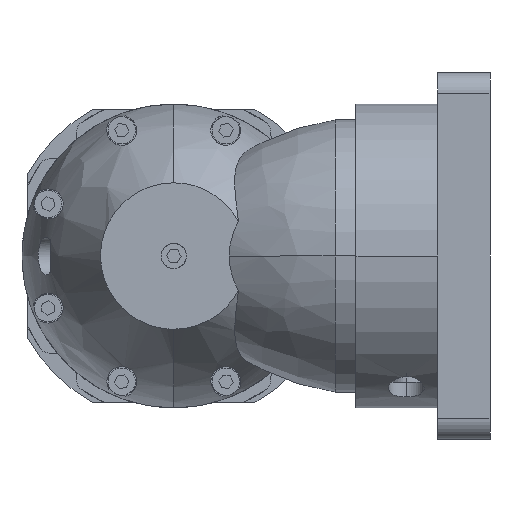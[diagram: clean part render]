
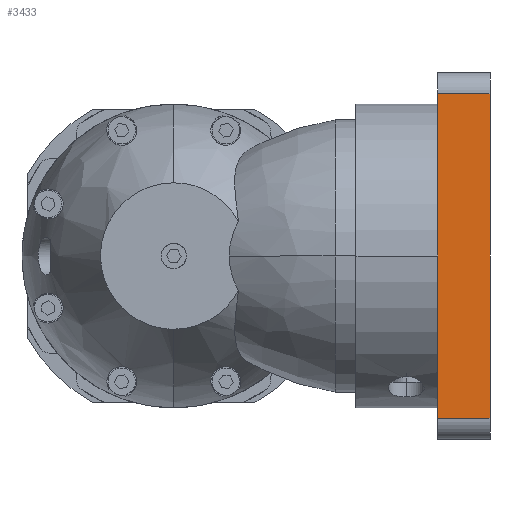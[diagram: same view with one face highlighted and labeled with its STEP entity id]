
A CAD part, left-side view. The second image highlights one B-rep face of the part: STEP entity #3433.
In plain terms, the highlighted planar face has unit normal (-1, 0, 0).
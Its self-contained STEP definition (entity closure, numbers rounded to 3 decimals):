
#80 = DIRECTION ( 'NONE',  ( 0., 0., 1. ) ) ;
#806 = CARTESIAN_POINT ( 'NONE',  ( -87.5, -126., -77.5 ) ) ;
#1289 = CARTESIAN_POINT ( 'NONE',  ( -87.5, -151., 77.5 ) ) ;
#1733 = VECTOR ( 'NONE', #15813, 1000. ) ;
#2258 = CARTESIAN_POINT ( 'NONE',  ( -87.5, -151., -77.5 ) ) ;
#2553 = ORIENTED_EDGE ( 'NONE', *, *, #10169, .F. ) ;
#2716 = VECTOR ( 'NONE', #3393, 1000. ) ;
#3169 = DIRECTION ( 'NONE',  ( 0., -1., 0. ) ) ;
#3393 = DIRECTION ( 'NONE',  ( 0., 1., 0. ) ) ;
#3433 = ADVANCED_FACE ( 'NONE', ( #10013 ), #11699, .F. ) ;
#3916 = VERTEX_POINT ( 'NONE', #8960 ) ;
#4504 = LINE ( 'NONE', #11054, #15845 ) ;
#4547 = EDGE_LOOP ( 'NONE', ( #14806, #12152, #2553, #5650 ) ) ;
#5650 = ORIENTED_EDGE ( 'NONE', *, *, #7389, .F. ) ;
#5735 = AXIS2_PLACEMENT_3D ( 'NONE', #1289, #7714, #7937 ) ;
#6637 = CARTESIAN_POINT ( 'NONE',  ( -87.5, -126., 77.5 ) ) ;
#6896 = CARTESIAN_POINT ( 'NONE',  ( -87.5, -126., 77.5 ) ) ;
#7389 = EDGE_CURVE ( 'NONE', #16128, #11329, #10166, .T. ) ;
#7714 = DIRECTION ( 'NONE',  ( 1., 0., 0. ) ) ;
#7937 = DIRECTION ( 'NONE',  ( 0., 1., 0. ) ) ;
#8026 = CARTESIAN_POINT ( 'NONE',  ( -87.5, -151., 77.5 ) ) ;
#8960 = CARTESIAN_POINT ( 'NONE',  ( -87.5, -151., -77.5 ) ) ;
#10013 = FACE_OUTER_BOUND ( 'NONE', #4547, .T. ) ;
#10166 = LINE ( 'NONE', #6637, #11609 ) ;
#10169 = EDGE_CURVE ( 'NONE', #11329, #14124, #4504, .T. ) ;
#11054 = CARTESIAN_POINT ( 'NONE',  ( -87.5, -151., 77.5 ) ) ;
#11329 = VERTEX_POINT ( 'NONE', #6896 ) ;
#11609 = VECTOR ( 'NONE', #80, 1000. ) ;
#11699 = PLANE ( 'NONE',  #5735 ) ;
#12152 = ORIENTED_EDGE ( 'NONE', *, *, #13630, .F. ) ;
#13630 = EDGE_CURVE ( 'NONE', #14124, #3916, #14718, .T. ) ;
#14124 = VERTEX_POINT ( 'NONE', #8026 ) ;
#14557 = CARTESIAN_POINT ( 'NONE',  ( -87.5, -151., 77.5 ) ) ;
#14718 = LINE ( 'NONE', #14557, #1733 ) ;
#14806 = ORIENTED_EDGE ( 'NONE', *, *, #16129, .F. ) ;
#15048 = LINE ( 'NONE', #2258, #2716 ) ;
#15813 = DIRECTION ( 'NONE',  ( 0., 0., -1. ) ) ;
#15845 = VECTOR ( 'NONE', #3169, 1000. ) ;
#16128 = VERTEX_POINT ( 'NONE', #806 ) ;
#16129 = EDGE_CURVE ( 'NONE', #3916, #16128, #15048, .T. ) ;
